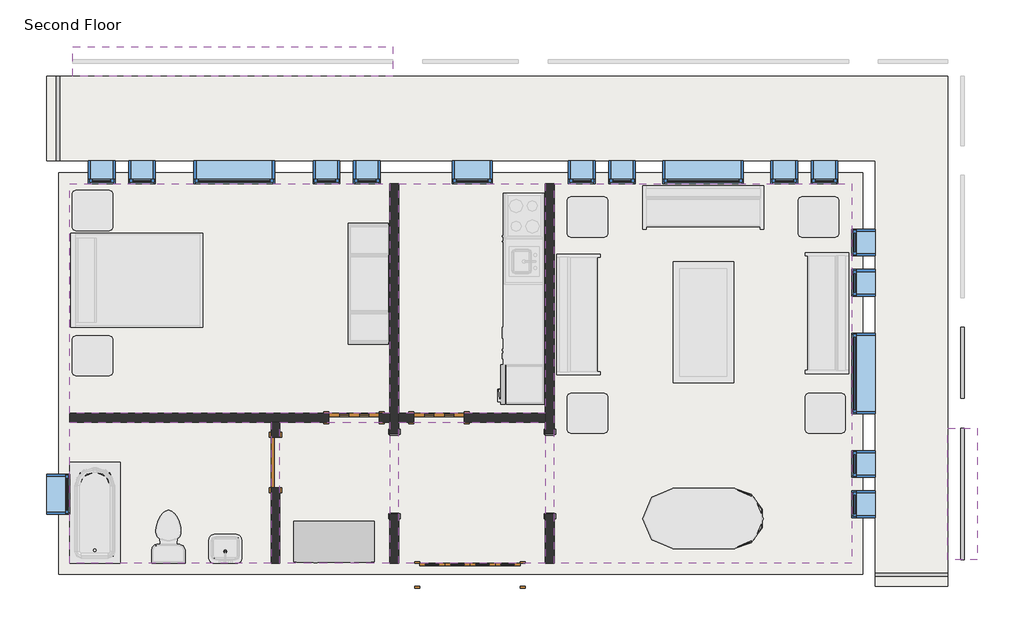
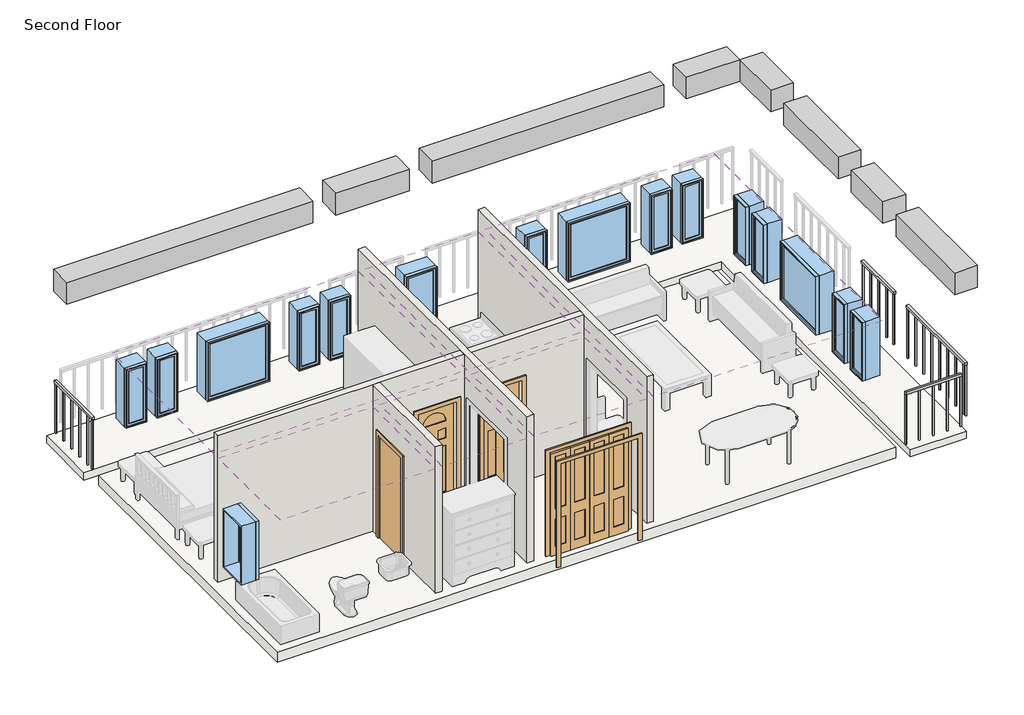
# One storey, part 1 of 2: 17 windows, 6 coverings, 4 doors, 4 railings, 4 walls, 2 beams, 2 slabs.
"""IFC4 building model written with IfcOpenShell, lengths in millimetres."""

from ifc_helpers import new_model, si_unit, frame, origin, place, context, project, spatial, polyline, outline, extrude, faceted_brep, transform, mapped, element, save
from components import m_bifold_4_panel_1525_x_2134mm_1ddae71f, m_single_decorative_2_0762_x_2134mm_0d0af7cb, m_single_decorative_2_0762_x_2134mm_2fe67c8e, m_single_flush_0762_x_2134mm_0d89e411, m_fixed_0406_x_1220mm_57fee329, m_fixed_0406_x_1220mm_85c28f40, m_fixed_0610_x_1220mm_2c28ef1d, m_fixed_1220_x_1220mm_e08ff7af

model = new_model("IFC4")

# Units and contexts
model_context = context("Model", 3, world=origin())
ifc_project = project(units=[si_unit("LENGTHUNIT", "METRE", prefix="MILLI")], contexts=[model_context])

# Site, building, storey
site = spatial("IfcSite", under=ifc_project)
building = spatial("IfcBuilding", under=site)
storey = spatial("IfcBuildingStorey", under=building, Name="Second Floor", Elevation=3048.0)

# Beams
placement = place(None, origin())
element("IfcBeam", 1, ObjectType="M_Concrete-Rectangular Beam : 450 x 450", at=placement, inside=storey, context=model_context, shape_type="SweptSolid", body=[
    extrude(outline(polyline([(-1643.3416203, 4481.1188386), (-1643.3416203, 4031.1188386), (-2693.3416203, 4031.1188386), (-2693.3416203, 4481.1188386), (-1643.3416203, 4481.1188386)])), frame((0.0, 0.0, 5646.0), z_axis=(0.0, 0.0, 1.0), x_axis=(1.0, 0.0, 0.0)), (0.0, 0.0, 1.0), 450.0),
    extrude(outline(polyline([(-14885.3416203, 4031.1188386), (-14885.3416203, 4481.1188386), (-10043.3416203, 4481.1188386), (-10043.3416203, 4031.1188386), (-14885.3416203, 4031.1188386)])), frame((0.0, 0.0, 5646.0), z_axis=(0.0, 0.0, 1.0), x_axis=(1.0, 0.0, 0.0)), (0.0, 0.0, 1.0), 450.0),
    extrude(outline(polyline([(-3143.3416203, 4481.1188386), (-3143.3416203, 4031.1188386), (-7693.3416203, 4031.1188386), (-7693.3416203, 4481.1188386), (-3143.3416203, 4481.1188386)])), frame((0.0, 0.0, 5646.0), z_axis=(0.0, 0.0, 1.0), x_axis=(1.0, 0.0, 0.0)), (0.0, 0.0, 1.0), 450.0),
    extrude(outline(polyline([(-8143.3416203, 4481.1188386), (-8143.3416203, 4031.1188386), (-9593.3416203, 4031.1188386), (-9593.3416203, 4481.1188386), (-8143.3416203, 4481.1188386)])), frame((0.0, 0.0, 5646.0), z_axis=(0.0, 0.0, 1.0), x_axis=(1.0, 0.0, 0.0)), (0.0, 0.0, 1.0), 450.0),
])
element("IfcBeam", 2, ObjectType="M_Concrete-Rectangular Beam : 450 x 450", at=placement, inside=storey, context=model_context, shape_type="SweptSolid", body=[
    extrude(outline(polyline([(-1193.3416203, -3289.8811614), (-1643.3416203, -3289.8811614), (-1643.3416203, -1295.3811614), (-1193.3416203, -1295.3811614), (-1193.3416203, -3289.8811614)])), frame((0.0, 0.0, 5646.0), z_axis=(0.0, 0.0, 1.0), x_axis=(1.0, 0.0, 0.0)), (0.0, 0.0, 1.0), 450.0),
    extrude(outline(polyline([(-1643.3416203, 4031.1188386), (-1193.3416203, 4031.1188386), (-1193.3416203, 2981.1188386), (-1643.3416203, 2981.1188386), (-1643.3416203, 4031.1188386)])), frame((0.0, 0.0, 5646.0), z_axis=(0.0, 0.0, 1.0), x_axis=(1.0, 0.0, 0.0)), (0.0, 0.0, 1.0), 450.0),
    extrude(outline(polyline([(-1643.3416203, 2531.1188386), (-1193.3416203, 2531.1188386), (-1193.3416203, 681.1188386), (-1643.3416203, 681.1188386), (-1643.3416203, 2531.1188386)])), frame((0.0, 0.0, 5646.0), z_axis=(0.0, 0.0, 1.0), x_axis=(1.0, 0.0, 0.0)), (0.0, 0.0, 1.0), 450.0),
    extrude(outline(polyline([(-1643.3416203, 231.1188386), (-1193.3416203, 231.1188386), (-1193.3416203, -845.3811614), (-1643.3416203, -845.3811614), (-1643.3416203, 231.1188386)])), frame((0.0, 0.0, 5646.0), z_axis=(0.0, 0.0, 1.0), x_axis=(1.0, 0.0, 0.0)), (0.0, 0.0, 1.0), 450.0),
])

# Coverings
element("IfcCovering", 3, ObjectType="Plain", at=placement, inside=storey, context=model_context, shape_type="SweptSolid", body=[
    extrude(outline(polyline([(-14935.3416203, 2406.1188386), (-10086.8416203, 2406.1188386), (-10086.8416203, -1070.3811614), (-14935.3416203, -1070.3811614), (-14935.3416203, 2406.1188386)])), frame((0.0, 0.0, 5638.0), z_axis=(0.0, 0.0, 1.0), x_axis=(1.0, 0.0, 0.0)), (0.0, 0.0, 1.0), 57.0),
])
element("IfcCovering", 4, ObjectType="Plain", at=placement, inside=storey, context=model_context, shape_type="SweptSolid", body=[
    extrude(outline(polyline([(-9951.3416203, -1070.3811614), (-9951.3416203, 2406.1188386), (-7733.0916203, 2406.1188386), (-7733.0916203, -1070.3811614), (-9951.3416203, -1070.3811614)])), frame((0.0, 0.0, 5638.0), z_axis=(0.0, 0.0, 1.0), x_axis=(1.0, 0.0, 0.0)), (0.0, 0.0, 1.0), 57.0),
])
element("IfcCovering", 5, ObjectType="Plain", at=placement, inside=storey, context=model_context, shape_type="SweptSolid", body=[
    extrude(outline(polyline([(-7597.5916203, -3339.8811614), (-7597.5916203, 2406.1188386), (-3093.3416203, 2406.1188386), (-3093.3416203, -3339.8811614), (-7597.5916203, -3339.8811614)])), frame((0.0, 0.0, 5638.0), z_axis=(0.0, 0.0, 1.0), x_axis=(1.0, 0.0, 0.0)), (0.0, 0.0, 1.0), 57.0),
])
element("IfcCovering", 6, ObjectType="Plain", at=placement, inside=storey, context=model_context, shape_type="SweptSolid", body=[
    extrude(outline(polyline([(-7733.0916203, -3339.8811614), (-9951.3416203, -3339.8811614), (-9951.3416203, -1205.8811614), (-7733.0916203, -1205.8811614), (-7733.0916203, -3339.8811614)])), frame((0.0, 0.0, 5638.0), z_axis=(0.0, 0.0, 1.0), x_axis=(1.0, 0.0, 0.0)), (0.0, 0.0, 1.0), 57.0),
])
element("IfcCovering", 7, ObjectType="Plain", at=placement, inside=storey, context=model_context, shape_type="SweptSolid", body=[
    extrude(outline(polyline([(-11887.3416203, -1205.8811614), (-11887.3416203, -3339.8811614), (-14935.3416203, -3339.8811614), (-14935.3416203, -1205.8811614), (-11887.3416203, -1205.8811614)])), frame((0.0, 0.0, 5638.0), z_axis=(0.0, 0.0, 1.0), x_axis=(1.0, 0.0, 0.0)), (0.0, 0.0, 1.0), 57.0),
])
element("IfcCovering", 8, ObjectType="Plain", at=placement, inside=storey, context=model_context, shape_type="SweptSolid", body=[
    extrude(outline(polyline([(-10086.8416203, -3339.8811614), (-11751.8416203, -3339.8811614), (-11751.8416203, -1205.8811614), (-10086.8416203, -1205.8811614), (-10086.8416203, -3339.8811614)])), frame((0.0, 0.0, 5638.0), z_axis=(0.0, 0.0, 1.0), x_axis=(1.0, 0.0, 0.0)), (0.0, 0.0, 1.0), 57.0),
])

# Doors
m_bifold_4_panel_1525_x_2134mm_shape = m_bifold_4_panel_1525_x_2134mm_1ddae71f(model_context)
element("IfcDoor", 9, ObjectType="M_Bifold-4 Panel : 1525 x 2134mm", at=placement, inside=storey, context=model_context, shape_type="MappedRepresentation", body=[
    mapped(m_bifold_4_panel_1525_x_2134mm_shape, transform((-8876.0916203, -3514.8811614, 3048.0), x_axis=(1.0, 0.0, 0.0), y_axis=(0.0, 1.0, 0.0), z_axis=(0.0, 0.0, 1.0))),
])
m_single_decorative_2_0762_x_2134mm_shape = m_single_decorative_2_0762_x_2134mm_0d0af7cb(model_context)
element("IfcDoor", 10, ObjectType="M_Single-Decorative 2 : 0762 x 2134mm", at=placement, inside=storey, context=model_context, shape_type="MappedRepresentation", body=[
    mapped(m_single_decorative_2_0762_x_2134mm_shape, transform((-9342.3416203, -1138.1311614, 3048.0), x_axis=(-1.0, 0.0, 0.0), y_axis=(0.0, -1.0, 0.0), z_axis=(0.0, 0.0, 1.0))),
])
m_single_decorative_2_0762_x_2134mm_2_shape = m_single_decorative_2_0762_x_2134mm_2fe67c8e(model_context)
element("IfcDoor", 11, ObjectType="M_Single-Decorative 2 : 0762 x 2134mm", at=placement, inside=storey, context=model_context, shape_type="MappedRepresentation", body=[
    mapped(m_single_decorative_2_0762_x_2134mm_2_shape, transform((-10629.0916203, -1138.1311614, 3048.0), x_axis=(1.0, 0.0, 0.0), y_axis=(0.0, 1.0, 0.0), z_axis=(0.0, 0.0, 1.0))),
])
m_single_flush_0762_x_2134mm_shape = m_single_flush_0762_x_2134mm_0d89e411(model_context)
element("IfcDoor", 12, ObjectType="M_Single-Flush : 0762 x 2134mm", at=placement, inside=storey, context=model_context, shape_type="MappedRepresentation", body=[
    mapped(m_single_flush_0762_x_2134mm_shape, transform((-11819.5916203, -1815.8811614, 3048.0), x_axis=(0.0, 1.0, 0.0), y_axis=(-1.0, 0.0, 0.0), z_axis=(0.0, 0.0, 1.0))),
])

# Railings
element("IfcRailing", 13, ObjectType="1100mm", at=placement, inside=storey, context=model_context, shape_type="SweptSolid", body=[
    extrude(outline(polyline([(-1443.3416203, 231.1188386), (-1393.3416203, 231.1188386), (-1393.3416203, -845.3811614), (-1443.3416203, -845.3811614), (-1443.3416203, 231.1188386)])), frame((0.0, 0.0, 4098.0), z_axis=(0.0, 0.0, 1.0), x_axis=(1.0, 0.0, 0.0)), (0.0, 0.0, 1.0), 50.0),
    extrude(outline(polyline([(-1430.8416203, -581.3811614), (-1405.8416203, -581.3811614), (-1405.8416203, -606.3811614), (-1430.8416203, -606.3811614), (-1430.8416203, -581.3811614)])), frame((0.0, 0.0, 3048.0), z_axis=(0.0, 0.0, 1.0), x_axis=(1.0, 0.0, 0.0)), (0.0, 0.0, 1.0), 1050.0),
    extrude(outline(polyline([(-1430.8416203, -306.3811614), (-1405.8416203, -306.3811614), (-1405.8416203, -331.3811614), (-1430.8416203, -331.3811614), (-1430.8416203, -306.3811614)])), frame((0.0, 0.0, 3048.0), z_axis=(0.0, 0.0, 1.0), x_axis=(1.0, 0.0, 0.0)), (0.0, 0.0, 1.0), 1050.0),
    extrude(outline(polyline([(-1430.8416203, -31.3811614), (-1405.8416203, -31.3811614), (-1405.8416203, -56.3811614), (-1430.8416203, -56.3811614), (-1430.8416203, -31.3811614)])), frame((0.0, 0.0, 3048.0), z_axis=(0.0, 0.0, 1.0), x_axis=(1.0, 0.0, 0.0)), (0.0, 0.0, 1.0), 1050.0),
    extrude(outline(polyline([(-1430.8416203, -820.3811614), (-1405.8416203, -820.3811614), (-1405.8416203, -845.3811614), (-1430.8416203, -845.3811614), (-1430.8416203, -820.3811614)])), frame((0.0, 0.0, 3048.0), z_axis=(0.0, 0.0, 1.0), x_axis=(1.0, 0.0, 0.0)), (0.0, 0.0, 1.0), 1050.0),
    extrude(outline(polyline([(-1430.8416203, 231.1188386), (-1405.8416203, 231.1188386), (-1405.8416203, 206.1188386), (-1430.8416203, 206.1188386), (-1430.8416203, 231.1188386)])), frame((0.0, 0.0, 3048.0), z_axis=(0.0, 0.0, 1.0), x_axis=(1.0, 0.0, 0.0)), (0.0, 0.0, 1.0), 1050.0),
])
element("IfcRailing", 14, ObjectType="1100mm", at=placement, inside=storey, context=model_context, shape_type="SweptSolid", body=[
    extrude(outline(polyline([(-1443.3416203, -1295.3811614), (-1393.3416203, -1295.3811614), (-1393.3416203, -3289.8811614), (-1443.3416203, -3289.8811614), (-1443.3416203, -1295.3811614)])), frame((0.0, 0.0, 4098.0), z_axis=(0.0, 0.0, 1.0), x_axis=(1.0, 0.0, 0.0)), (0.0, 0.0, 1.0), 50.0),
    extrude(outline(polyline([(-1430.8416203, -3207.8811614), (-1405.8416203, -3207.8811614), (-1405.8416203, -3232.8811614), (-1430.8416203, -3232.8811614), (-1430.8416203, -3207.8811614)])), frame((0.0, 0.0, 3048.0), z_axis=(0.0, 0.0, 1.0), x_axis=(1.0, 0.0, 0.0)), (0.0, 0.0, 1.0), 1050.0),
    extrude(outline(polyline([(-1430.8416203, -2932.8811614), (-1405.8416203, -2932.8811614), (-1405.8416203, -2957.8811614), (-1430.8416203, -2957.8811614), (-1430.8416203, -2932.8811614)])), frame((0.0, 0.0, 3048.0), z_axis=(0.0, 0.0, 1.0), x_axis=(1.0, 0.0, 0.0)), (0.0, 0.0, 1.0), 1050.0),
    extrude(outline(polyline([(-1430.8416203, -2657.8811614), (-1405.8416203, -2657.8811614), (-1405.8416203, -2682.8811614), (-1430.8416203, -2682.8811614), (-1430.8416203, -2657.8811614)])), frame((0.0, 0.0, 3048.0), z_axis=(0.0, 0.0, 1.0), x_axis=(1.0, 0.0, 0.0)), (0.0, 0.0, 1.0), 1050.0),
    extrude(outline(polyline([(-1430.8416203, -2382.8811614), (-1405.8416203, -2382.8811614), (-1405.8416203, -2407.8811614), (-1430.8416203, -2407.8811614), (-1430.8416203, -2382.8811614)])), frame((0.0, 0.0, 3048.0), z_axis=(0.0, 0.0, 1.0), x_axis=(1.0, 0.0, 0.0)), (0.0, 0.0, 1.0), 1050.0),
    extrude(outline(polyline([(-1430.8416203, -2107.8811614), (-1405.8416203, -2107.8811614), (-1405.8416203, -2132.8811614), (-1430.8416203, -2132.8811614), (-1430.8416203, -2107.8811614)])), frame((0.0, 0.0, 3048.0), z_axis=(0.0, 0.0, 1.0), x_axis=(1.0, 0.0, 0.0)), (0.0, 0.0, 1.0), 1050.0),
    extrude(outline(polyline([(-1430.8416203, -1832.8811614), (-1405.8416203, -1832.8811614), (-1405.8416203, -1857.8811614), (-1430.8416203, -1857.8811614), (-1430.8416203, -1832.8811614)])), frame((0.0, 0.0, 3048.0), z_axis=(0.0, 0.0, 1.0), x_axis=(1.0, 0.0, 0.0)), (0.0, 0.0, 1.0), 1050.0),
    extrude(outline(polyline([(-1430.8416203, -1557.8811614), (-1405.8416203, -1557.8811614), (-1405.8416203, -1582.8811614), (-1430.8416203, -1582.8811614), (-1430.8416203, -1557.8811614)])), frame((0.0, 0.0, 3048.0), z_axis=(0.0, 0.0, 1.0), x_axis=(1.0, 0.0, 0.0)), (0.0, 0.0, 1.0), 1050.0),
    extrude(outline(polyline([(-1430.8416203, -3264.8811614), (-1405.8416203, -3264.8811614), (-1405.8416203, -3289.8811614), (-1430.8416203, -3289.8811614), (-1430.8416203, -3264.8811614)])), frame((0.0, 0.0, 3048.0), z_axis=(0.0, 0.0, 1.0), x_axis=(1.0, 0.0, 0.0)), (0.0, 0.0, 1.0), 1050.0),
    extrude(outline(polyline([(-1430.8416203, -1295.3811614), (-1405.8416203, -1295.3811614), (-1405.8416203, -1320.3811614), (-1430.8416203, -1320.3811614), (-1430.8416203, -1295.3811614)])), frame((0.0, 0.0, 3048.0), z_axis=(0.0, 0.0, 1.0), x_axis=(1.0, 0.0, 0.0)), (0.0, 0.0, 1.0), 1050.0),
])
element("IfcRailing", 15, ObjectType="1100mm", at=placement, inside=storey, context=model_context, shape_type="SweptSolid", body=[
    extrude(outline(polyline([(-1643.3416203, -3489.8811614), (-1643.3416203, -3539.8811614), (-2743.3416203, -3539.8811614), (-2743.3416203, -3489.8811614), (-1643.3416203, -3489.8811614)])), frame((0.0, 0.0, 4098.0), z_axis=(0.0, 0.0, 1.0), x_axis=(1.0, 0.0, 0.0)), (0.0, 0.0, 1.0), 50.0),
    extrude(outline(polyline([(-2455.8416203, -3502.3811614), (-2455.8416203, -3527.3811614), (-2480.8416203, -3527.3811614), (-2480.8416203, -3502.3811614), (-2455.8416203, -3502.3811614)])), frame((0.0, 0.0, 3048.0), z_axis=(0.0, 0.0, 1.0), x_axis=(1.0, 0.0, 0.0)), (0.0, 0.0, 1.0), 1050.0),
    extrude(outline(polyline([(-2180.8416203, -3502.3811614), (-2180.8416203, -3527.3811614), (-2205.8416203, -3527.3811614), (-2205.8416203, -3502.3811614), (-2180.8416203, -3502.3811614)])), frame((0.0, 0.0, 3048.0), z_axis=(0.0, 0.0, 1.0), x_axis=(1.0, 0.0, 0.0)), (0.0, 0.0, 1.0), 1050.0),
    extrude(outline(polyline([(-1905.8416203, -3502.3811614), (-1905.8416203, -3527.3811614), (-1930.8416203, -3527.3811614), (-1930.8416203, -3502.3811614), (-1905.8416203, -3502.3811614)])), frame((0.0, 0.0, 3048.0), z_axis=(0.0, 0.0, 1.0), x_axis=(1.0, 0.0, 0.0)), (0.0, 0.0, 1.0), 1050.0),
    extrude(outline(polyline([(-2718.3416203, -3502.3811614), (-2718.3416203, -3527.3811614), (-2743.3416203, -3527.3811614), (-2743.3416203, -3502.3811614), (-2718.3416203, -3502.3811614)])), frame((0.0, 0.0, 3048.0), z_axis=(0.0, 0.0, 1.0), x_axis=(1.0, 0.0, 0.0)), (0.0, 0.0, 1.0), 1050.0),
    extrude(outline(polyline([(-1643.3416203, -3502.3811614), (-1643.3416203, -3527.3811614), (-1668.3416203, -3527.3811614), (-1668.3416203, -3502.3811614), (-1643.3416203, -3502.3811614)])), frame((0.0, 0.0, 3048.0), z_axis=(0.0, 0.0, 1.0), x_axis=(1.0, 0.0, 0.0)), (0.0, 0.0, 1.0), 1050.0),
])
element("IfcRailing", 16, ObjectType="1100mm", at=placement, inside=storey, context=model_context, shape_type="SweptSolid", body=[
    extrude(outline(polyline([(-15135.3416203, 4031.1188386), (-15085.3416203, 4031.1188386), (-15085.3416203, 2756.1188386), (-15135.3416203, 2756.1188386), (-15135.3416203, 4031.1188386)])), frame((0.0, 0.0, 4098.0), z_axis=(0.0, 0.0, 1.0), x_axis=(1.0, 0.0, 0.0)), (0.0, 0.0, 1.0), 50.0),
    extrude(outline(polyline([(-15122.8416203, 2943.6188386), (-15097.8416203, 2943.6188386), (-15097.8416203, 2918.6188386), (-15122.8416203, 2918.6188386), (-15122.8416203, 2943.6188386)])), frame((0.0, 0.0, 3048.0), z_axis=(0.0, 0.0, 1.0), x_axis=(1.0, 0.0, 0.0)), (0.0, 0.0, 1.0), 1050.0),
    extrude(outline(polyline([(-15122.8416203, 3218.6188386), (-15097.8416203, 3218.6188386), (-15097.8416203, 3193.6188386), (-15122.8416203, 3193.6188386), (-15122.8416203, 3218.6188386)])), frame((0.0, 0.0, 3048.0), z_axis=(0.0, 0.0, 1.0), x_axis=(1.0, 0.0, 0.0)), (0.0, 0.0, 1.0), 1050.0),
    extrude(outline(polyline([(-15122.8416203, 3493.6188386), (-15097.8416203, 3493.6188386), (-15097.8416203, 3468.6188386), (-15122.8416203, 3468.6188386), (-15122.8416203, 3493.6188386)])), frame((0.0, 0.0, 3048.0), z_axis=(0.0, 0.0, 1.0), x_axis=(1.0, 0.0, 0.0)), (0.0, 0.0, 1.0), 1050.0),
    extrude(outline(polyline([(-15122.8416203, 3768.6188386), (-15097.8416203, 3768.6188386), (-15097.8416203, 3743.6188386), (-15122.8416203, 3743.6188386), (-15122.8416203, 3768.6188386)])), frame((0.0, 0.0, 3048.0), z_axis=(0.0, 0.0, 1.0), x_axis=(1.0, 0.0, 0.0)), (0.0, 0.0, 1.0), 1050.0),
    extrude(outline(polyline([(-15122.8416203, 2781.1188386), (-15097.8416203, 2781.1188386), (-15097.8416203, 2756.1188386), (-15122.8416203, 2756.1188386), (-15122.8416203, 2781.1188386)])), frame((0.0, 0.0, 3048.0), z_axis=(0.0, 0.0, 1.0), x_axis=(1.0, 0.0, 0.0)), (0.0, 0.0, 1.0), 1050.0),
    extrude(outline(polyline([(-15122.8416203, 4031.1188386), (-15097.8416203, 4031.1188386), (-15097.8416203, 4006.1188386), (-15122.8416203, 4006.1188386), (-15122.8416203, 4031.1188386)])), frame((0.0, 0.0, 3048.0), z_axis=(0.0, 0.0, 1.0), x_axis=(1.0, 0.0, 0.0)), (0.0, 0.0, 1.0), 1050.0),
])

# Slabs
element("IfcSlab", 17, ObjectType="160mm Concrete With 50mm Metal Deck", at=placement, inside=storey, context=model_context, shape_type="SweptSolid", body=[
    extrude(outline(polyline([(-2928.3416203, 2571.1188386), (-2928.3416203, -3504.8811614), (-15100.3416203, -3504.8811614), (-15100.3416203, 2571.1188386), (-2928.3416203, 2571.1188386)])), frame((0.0, 0.0, 2838.0), z_axis=(0.0, 0.0, 1.0), x_axis=(1.0, 0.0, 0.0)), (0.0, 0.0, 1.0), 210.0),
])
element("IfcSlab", 18, ObjectType="Generic 150mm", at=placement, inside=storey, context=model_context, shape_type="SweptSolid", body=[
    extrude(outline(polyline([(-15285.3416203, 4031.1188386), (-1643.3416203, 4031.1188386), (-1643.3416203, -3689.8811614), (-2743.3416203, -3689.8811614), (-2743.3416203, 2756.1188386), (-15285.3416203, 2756.1188386), (-15285.3416203, 4031.1188386)])), frame((0.0, 0.0, 2898.0), z_axis=(0.0, 0.0, 1.0), x_axis=(1.0, 0.0, 0.0)), (0.0, 0.0, 1.0), 150.0),
])

# Walls
element("IfcWall", 19, ObjectType="Interior - 135mm Partition (2-hr)", at=placement, inside=storey, context=model_context, shape_type="Brep", body=[
    faceted_brep([(-7733.0916203, 2406.1188386, 3048.0), (-7733.0916203, -1070.3811614, 3048.0), (-7733.0916203, -1205.8811614, 3048.0), (-7733.0916203, -1380.8811614, 3048.0), (-7733.0916203, -1380.8811614, 5182.0), (-7733.0916203, -2600.8811614, 5182.0), (-7733.0916203, -2600.8811614, 3048.0), (-7733.0916203, -3339.8811614, 3048.0), (-7733.0916203, -3339.8811614, 6096.0), (-7733.0916203, -1205.8811614, 6096.0), (-7733.0916203, -1070.3811614, 6096.0), (-7733.0916203, 2406.1188386, 6096.0), (-7597.5916203, -1380.8811614, 5182.0), (-7597.5916203, -1380.8811614, 3048.0), (-7597.5916203, 2406.1188386, 3048.0), (-7597.5916203, 2406.1188386, 6096.0), (-7597.5916203, -3339.8811614, 6096.0), (-7597.5916203, -3339.8811614, 3048.0), (-7597.5916203, -2600.8811614, 3048.0), (-7597.5916203, -2600.8811614, 5182.0)], [[[0, 1, 2, 3, 4, 5, 6, 7, 8, 9, 10, 11]], [[12, 13, 14, 15, 16, 17, 18, 19]], [[18, 17, 7, 6]], [[14, 13, 3, 2, 1, 0]], [[11, 10, 9, 8, 16, 15]], [[6, 5, 19, 18]], [[4, 3, 13, 12]], [[5, 4, 12, 19]], [[0, 11, 15, 14]], [[8, 7, 17, 16]]]),
])
element("IfcWall", 20, ObjectType="Interior - 135mm Partition (2-hr)", at=placement, inside=storey, context=model_context, shape_type="Brep", body=[
    faceted_brep([(-10086.8416203, -2600.8811614, 5182.0), (-10086.8416203, -2600.8811614, 3048.0), (-10086.8416203, -3339.8811614, 3048.0), (-10086.8416203, -3339.8811614, 6096.0), (-10086.8416203, -1205.8811614, 6096.0), (-10086.8416203, -1070.3811614, 6096.0), (-10086.8416203, 2406.1188386, 6096.0), (-10086.8416203, 2406.1188386, 3048.0), (-10086.8416203, -1070.3811614, 3048.0), (-10086.8416203, -1205.8811614, 3048.0), (-10086.8416203, -1380.8811614, 3048.0), (-10086.8416203, -1380.8811614, 5182.0), (-9951.3416203, -3339.8811614, 3048.0), (-9951.3416203, -2600.8811614, 3048.0), (-9951.3416203, -2600.8811614, 5182.0), (-9951.3416203, -1380.8811614, 5182.0), (-9951.3416203, -1380.8811614, 3048.0), (-9951.3416203, -1205.8811614, 3048.0), (-9951.3416203, -1070.3811614, 3048.0), (-9951.3416203, 2406.1188386, 3048.0), (-9951.3416203, 2406.1188386, 6096.0), (-9951.3416203, -1070.3811614, 6096.0), (-9951.3416203, -1205.8811614, 6096.0), (-9951.3416203, -3339.8811614, 6096.0)], [[[0, 1, 2, 3, 4, 5, 6, 7, 8, 9, 10, 11]], [[12, 13, 14, 15, 16, 17, 18, 19, 20, 21, 22, 23]], [[2, 1, 13, 12]], [[10, 9, 8, 7, 19, 18, 17, 16]], [[6, 5, 4, 3, 23, 22, 21, 20]], [[16, 15, 11, 10]], [[14, 13, 1, 0]], [[15, 14, 0, 11]], [[7, 6, 20, 19]], [[3, 2, 12, 23]]]),
])
element("IfcWall", 21, ObjectType="Interior - 135mm Partition (2-hr)", at=placement, inside=storey, context=model_context, shape_type="Brep", body=[
    faceted_brep([(-7733.0916203, -1205.8811614, 3048.0), (-7733.0916203, -1205.8811614, 6096.0), (-9951.3416203, -1205.8811614, 6096.0), (-9951.3416203, -1205.8811614, 3048.0), (-9723.3416203, -1205.8811614, 3048.0), (-9723.3416203, -1205.8811614, 5182.0), (-8961.3416203, -1205.8811614, 5182.0), (-8961.3416203, -1205.8811614, 3048.0), (-7733.0916203, -1070.3811614, 6096.0), (-7733.0916203, -1070.3811614, 3048.0), (-8961.3416203, -1070.3811614, 3048.0), (-8961.3416203, -1070.3811614, 5182.0), (-9723.3416203, -1070.3811614, 5182.0), (-9723.3416203, -1070.3811614, 3048.0), (-9951.3416203, -1070.3811614, 3048.0), (-9951.3416203, -1070.3811614, 6096.0)], [[[0, 1, 2, 3, 4, 5, 6, 7]], [[8, 9, 10, 11, 12, 13, 14, 15]], [[9, 0, 7, 10]], [[13, 4, 3, 14]], [[1, 8, 15, 2]], [[1, 0, 9, 8]], [[3, 2, 15, 14]], [[5, 4, 13, 12]], [[6, 5, 12, 11]], [[7, 6, 11, 10]]]),
    faceted_brep([(-10248.0916203, -1205.8811614, 5182.0), (-10248.0916203, -1205.8811614, 3048.0), (-10086.8416203, -1205.8811614, 3048.0), (-10086.8416203, -1205.8811614, 6096.0), (-11751.8416203, -1205.8811614, 6096.0), (-11887.3416203, -1205.8811614, 6096.0), (-14935.3416203, -1205.8811614, 6096.0), (-14935.3416203, -1205.8811614, 3048.0), (-11887.3416203, -1205.8811614, 3048.0), (-11751.8416203, -1205.8811614, 3048.0), (-11010.0916203, -1205.8811614, 3048.0), (-11010.0916203, -1205.8811614, 5182.0), (-10248.0916203, -1070.3811614, 3048.0), (-10248.0916203, -1070.3811614, 5182.0), (-11010.0916203, -1070.3811614, 5182.0), (-11010.0916203, -1070.3811614, 3048.0), (-14935.3416203, -1070.3811614, 3048.0), (-14935.3416203, -1070.3811614, 6096.0), (-10086.8416203, -1070.3811614, 6096.0), (-10086.8416203, -1070.3811614, 3048.0)], [[[0, 1, 2, 3, 4, 5, 6, 7, 8, 9, 10, 11]], [[12, 13, 14, 15, 16, 17, 18, 19]], [[1, 12, 19, 2]], [[15, 10, 9, 8, 7, 16]], [[17, 6, 5, 4, 3, 18]], [[3, 2, 19, 18]], [[13, 12, 1, 0]], [[14, 13, 0, 11]], [[15, 14, 11, 10]], [[7, 6, 17, 16]]]),
])
element("IfcWall", 22, ObjectType="Interior - 135mm Partition (2-hr)", at=placement, inside=storey, context=model_context, shape_type="SweptSolid", body=[
    extrude(outline(polyline([(-1205.8811614, 3048.0), (-1434.8811614, 3048.0), (-1434.8811614, 5182.0), (-2196.8811614, 5182.0), (-2196.8811614, 3048.0), (-3339.8811614, 3048.0), (-3339.8811614, 6096.0), (-1205.8811614, 6096.0), (-1205.8811614, 3048.0)])), frame((-11887.3416203, 0.0, 0.0), z_axis=(1.0, 0.0, 0.0), x_axis=(0.0, 1.0, 0.0)), (0.0, 0.0, 1.0), 135.5),
])

# Windows
m_fixed_0406_x_1220mm_shape = m_fixed_0406_x_1220mm_57fee329(model_context)
element("IfcWindow", 23, ObjectType="M_Fixed : 0406 x 1220mm", at=placement, inside=storey, context=model_context, shape_type="MappedRepresentation", body=[
    mapped(m_fixed_0406_x_1220mm_shape, transform((-14450.3416203, 2594.1188386, 3048.0), x_axis=(-1.0, 0.0, 0.0), y_axis=(0.0, -1.0, 0.0), z_axis=(0.0, 0.0, 1.0))),
])
element("IfcWindow", 24, ObjectType="M_Fixed : 0406 x 1220mm", at=placement, inside=storey, context=model_context, shape_type="MappedRepresentation", body=[
    mapped(m_fixed_0406_x_1220mm_shape, transform((-13840.3416203, 2594.1188386, 3048.0), x_axis=(-1.0, 0.0, 0.0), y_axis=(0.0, -1.0, 0.0), z_axis=(0.0, 0.0, 1.0))),
])
element("IfcWindow", 25, ObjectType="M_Fixed : 0406 x 1220mm", at=placement, inside=storey, context=model_context, shape_type="MappedRepresentation", body=[
    mapped(m_fixed_0406_x_1220mm_shape, transform((-7183.3416203, 2594.1188386, 3048.0), x_axis=(-1.0, 0.0, 0.0), y_axis=(0.0, -1.0, 0.0), z_axis=(0.0, 0.0, 1.0))),
])
element("IfcWindow", 26, ObjectType="M_Fixed : 0406 x 1220mm", at=placement, inside=storey, context=model_context, shape_type="MappedRepresentation", body=[
    mapped(m_fixed_0406_x_1220mm_shape, transform((-6573.3416203, 2594.1188386, 3048.0), x_axis=(-1.0, 0.0, 0.0), y_axis=(0.0, -1.0, 0.0), z_axis=(0.0, 0.0, 1.0))),
])
element("IfcWindow", 27, ObjectType="M_Fixed : 0406 x 1220mm", at=placement, inside=storey, context=model_context, shape_type="MappedRepresentation", body=[
    mapped(m_fixed_0406_x_1220mm_shape, transform((-2905.3416203, 1514.1188386, 3048.0), x_axis=(0.0, 1.0, 0.0), y_axis=(-1.0, 0.0, 0.0), z_axis=(0.0, 0.0, 1.0))),
])
element("IfcWindow", 28, ObjectType="M_Fixed : 0406 x 1220mm", at=placement, inside=storey, context=model_context, shape_type="MappedRepresentation", body=[
    mapped(m_fixed_0406_x_1220mm_shape, transform((-2905.3416203, 904.1188386, 3048.0), x_axis=(0.0, 1.0, 0.0), y_axis=(-1.0, 0.0, 0.0), z_axis=(0.0, 0.0, 1.0))),
])
m_fixed_0406_x_1220mm_2_shape = m_fixed_0406_x_1220mm_85c28f40(model_context)
element("IfcWindow", 29, ObjectType="M_Fixed : 0406 x 1220mm", at=placement, inside=storey, context=model_context, shape_type="MappedRepresentation", body=[
    mapped(m_fixed_0406_x_1220mm_2_shape, transform((-10436.3416203, 2594.1188386, 3048.0), x_axis=(1.0, 0.0, 0.0), y_axis=(0.0, 1.0, 0.0), z_axis=(0.0, 0.0, 1.0))),
])
element("IfcWindow", 30, ObjectType="M_Fixed : 0406 x 1220mm", at=placement, inside=storey, context=model_context, shape_type="MappedRepresentation", body=[
    mapped(m_fixed_0406_x_1220mm_2_shape, transform((-11046.3416203, 2594.1188386, 3048.0), x_axis=(1.0, 0.0, 0.0), y_axis=(0.0, 1.0, 0.0), z_axis=(0.0, 0.0, 1.0))),
])
element("IfcWindow", 31, ObjectType="M_Fixed : 0406 x 1220mm", at=placement, inside=storey, context=model_context, shape_type="MappedRepresentation", body=[
    mapped(m_fixed_0406_x_1220mm_2_shape, transform((-3507.5916203, 2594.1188386, 3048.0), x_axis=(1.0, 0.0, 0.0), y_axis=(0.0, 1.0, 0.0), z_axis=(0.0, 0.0, 1.0))),
])
element("IfcWindow", 32, ObjectType="M_Fixed : 0406 x 1220mm", at=placement, inside=storey, context=model_context, shape_type="MappedRepresentation", body=[
    mapped(m_fixed_0406_x_1220mm_2_shape, transform((-4117.5916203, 2594.1188386, 3048.0), x_axis=(1.0, 0.0, 0.0), y_axis=(0.0, 1.0, 0.0), z_axis=(0.0, 0.0, 1.0))),
])
element("IfcWindow", 33, ObjectType="M_Fixed : 0406 x 1220mm", at=placement, inside=storey, context=model_context, shape_type="MappedRepresentation", body=[
    mapped(m_fixed_0406_x_1220mm_2_shape, transform((-2905.3416203, -2447.8811614, 3048.0), x_axis=(0.0, -1.0, 0.0), y_axis=(1.0, 0.0, 0.0), z_axis=(0.0, 0.0, 1.0))),
])
element("IfcWindow", 34, ObjectType="M_Fixed : 0406 x 1220mm", at=placement, inside=storey, context=model_context, shape_type="MappedRepresentation", body=[
    mapped(m_fixed_0406_x_1220mm_2_shape, transform((-2905.3416203, -1837.8811614, 3048.0), x_axis=(0.0, -1.0, 0.0), y_axis=(1.0, 0.0, 0.0), z_axis=(0.0, 0.0, 1.0))),
])
m_fixed_0610_x_1220mm_shape = m_fixed_0610_x_1220mm_2c28ef1d(model_context)
element("IfcWindow", 35, ObjectType="M_Fixed : 0610 x 1220mm", at=placement, inside=storey, context=model_context, shape_type="MappedRepresentation", body=[
    mapped(m_fixed_0610_x_1220mm_shape, transform((-8842.1916203, 2594.1188386, 3048.0), x_axis=(-1.0, 0.0, 0.0), y_axis=(0.0, -1.0, 0.0), z_axis=(0.0, 0.0, 1.0))),
])
element("IfcWindow", 36, ObjectType="M_Fixed : 0610 x 1220mm", at=placement, inside=storey, context=model_context, shape_type="MappedRepresentation", body=[
    mapped(m_fixed_0610_x_1220mm_shape, transform((-15123.3416203, -2294.8811614, 3048.0), x_axis=(0.0, -1.0, 0.0), y_axis=(1.0, 0.0, 0.0), z_axis=(0.0, 0.0, 1.0))),
])
m_fixed_1220_x_1220mm_shape = m_fixed_1220_x_1220mm_e08ff7af(model_context)
element("IfcWindow", 37, ObjectType="M_Fixed : 1220 x 1220mm", at=placement, inside=storey, context=model_context, shape_type="MappedRepresentation", body=[
    mapped(m_fixed_1220_x_1220mm_shape, transform((-12443.3416203, 2594.1188386, 3048.0), x_axis=(-1.0, 0.0, 0.0), y_axis=(0.0, -1.0, 0.0), z_axis=(0.0, 0.0, 1.0))),
])
element("IfcWindow", 38, ObjectType="M_Fixed : 1220 x 1220mm", at=placement, inside=storey, context=model_context, shape_type="MappedRepresentation", body=[
    mapped(m_fixed_1220_x_1220mm_shape, transform((-5345.4666203, 2594.1188386, 3048.0), x_axis=(-1.0, 0.0, 0.0), y_axis=(0.0, -1.0, 0.0), z_axis=(0.0, 0.0, 1.0))),
])
element("IfcWindow", 39, ObjectType="M_Fixed : 1220 x 1220mm", at=placement, inside=storey, context=model_context, shape_type="MappedRepresentation", body=[
    mapped(m_fixed_1220_x_1220mm_shape, transform((-2905.3416203, -466.8811614, 3048.0), x_axis=(0.0, 1.0, 0.0), y_axis=(-1.0, 0.0, 0.0), z_axis=(0.0, 0.0, 1.0))),
])

save(model, "model.ifc")
